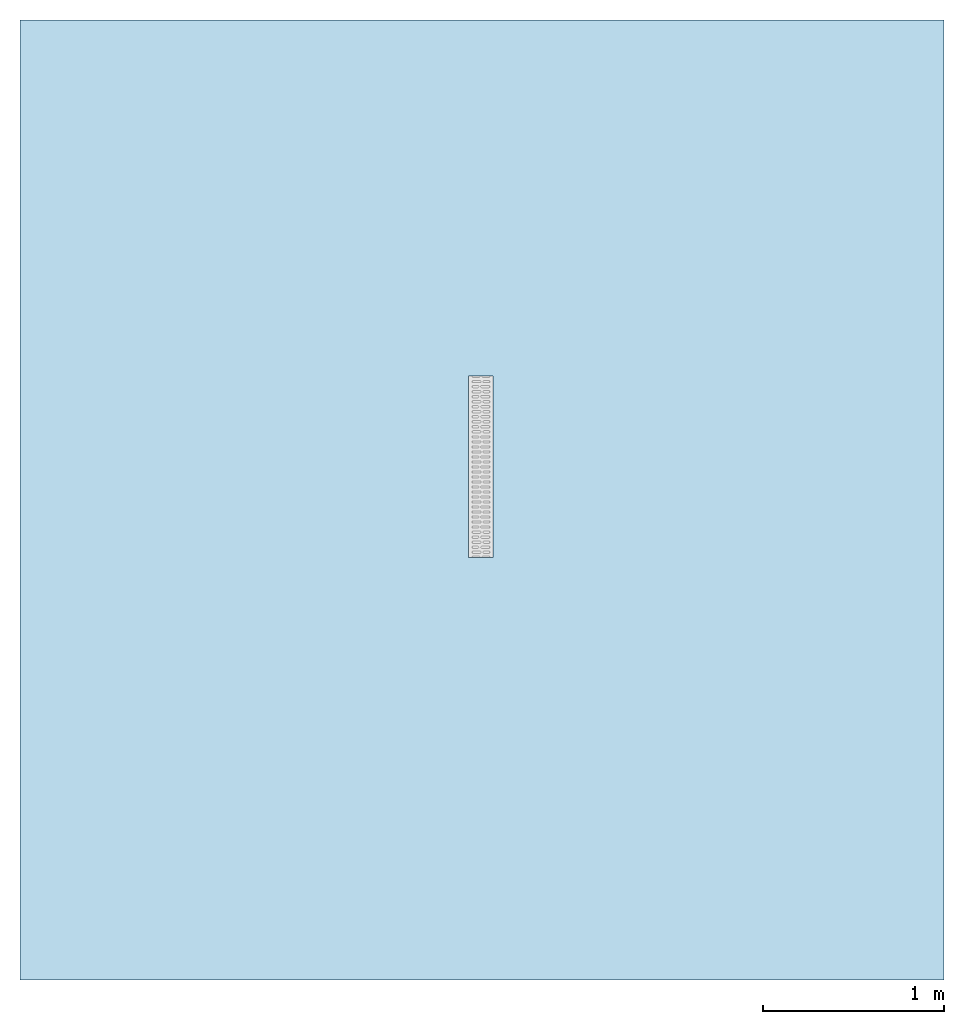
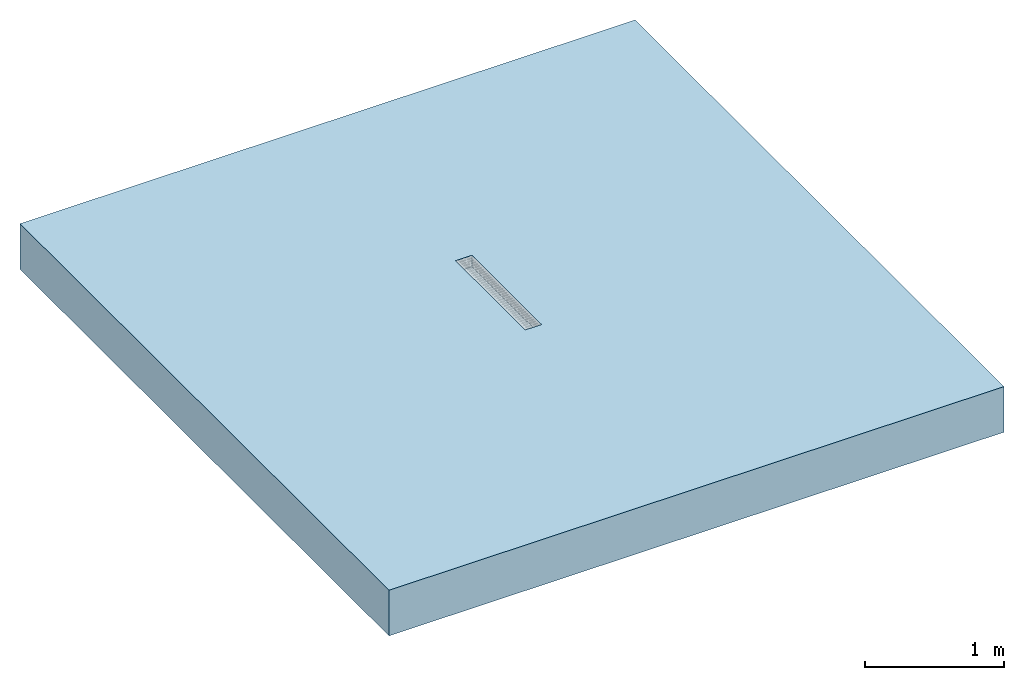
# One storey, incomplete: 1 slab, 1 opening.
"""IFC2X3 building model written with IfcOpenShell, lengths in millimetres."""

from ifc_helpers import new_model, entity, si_unit, converted_unit, direction, frame, frame_2d, origin, origin_2d_with_axis, place, context, subcontext, project, spatial, rectangle, extrude, material, layer, layer_set, layer_usage, element, save


model = new_model("IFC2X3")

# Units and contexts
model_context = context("Model", 3, precision=1e-06, world=origin(), true_north=direction((2.0, 6.12303176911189e-17, 1.0)))
context_of_model = context(None, 3, precision=1e-06, world=origin(), true_north=direction((2.0, 6.12303176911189e-17, 1.0)))
body_context = subcontext(model_context, "Body", "Model", "MODEL_VIEW")
ifc_project = project(units=[si_unit("LENGTHUNIT", "METRE", prefix="MILLI"), si_unit("AREAUNIT", "SQUARE_METRE", prefix="MILLI"), si_unit("VOLUMEUNIT", "CUBIC_METRE", prefix="MILLI"), converted_unit("PLANEANGLEUNIT", "DEGREE", entity("IfcRatioMeasure", 0.0174532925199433), si_unit("PLANEANGLEUNIT", "RADIAN"), dimensions=[0, 0, 0, 0, 0, 0, 0]), si_unit("TIMEUNIT", "SECOND")], contexts=[model_context, context_of_model])

# Site, building, storey
site_placement = place(None, origin())
site = spatial("IfcSite", under=ifc_project, at=site_placement, Name="Default", CompositionType="ELEMENT")
building_placement = place(site_placement, origin())
building = spatial("IfcBuilding", under=site, at=building_placement, CompositionType="ELEMENT")
storey_placement = place(building_placement, origin())
storey = spatial("IfcBuildingStorey", under=building, at=storey_placement, Name="Level 1", CompositionType="ELEMENT", Elevation=0.0)

# Slab, opening
ifc_material = material(Name="Plant")
ifc_layer = layer(ifc_material, 400.0)
ifc_layer_set = layer_set([ifc_layer], Name="Floor:Generic Floor - 400mm")
ifc_layer_usage = layer_usage(ifc_layer_set, "AXIS3", "POSITIVE", 0.0)
slab_placement = place(storey_placement, frame((-4647.86261836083, 721.458014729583, -400.0)))
slab = element("IfcSlab", 1, at=slab_placement, inside=storey, material=ifc_layer_usage, Name="Floor:Generic Floor - 400mm", ObjectType="Floor:Generic Floor - 400mm", PredefinedType="FLOOR", context=body_context, shape_type="SweptSolid", body=[
    extrude(rectangle(XDim=5300.0, YDim=5100.0, at=frame_2d((0.0, 0.0), x_axis=(0.0, -1.0))), frame((2550.0, 2650.0, 400.0), z_axis=(0.0, 0.0, -1.0), x_axis=(-1.0, 0.0, 0.0)), (0.0, 0.0, 1.0), 400.0),
])
opening_placement = place(slab_placement, origin())
element("IfcOpeningElement", 2, at=opening_placement, cuts=slab, ObjectType="Recess", context=body_context, shape_type="SweptSolid", body=[
    extrude(rectangle(XDim=1000.0, YDim=135.0, at=origin_2d_with_axis()), frame((2544.68201524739, 2833.67683880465, 300.0), z_axis=(0.0, 0.0, 1.0), x_axis=(0.0, 1.0, 0.0)), (0.0, 0.0, 1.0), 99.9999999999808),
])

save(model, "model.ifc")
